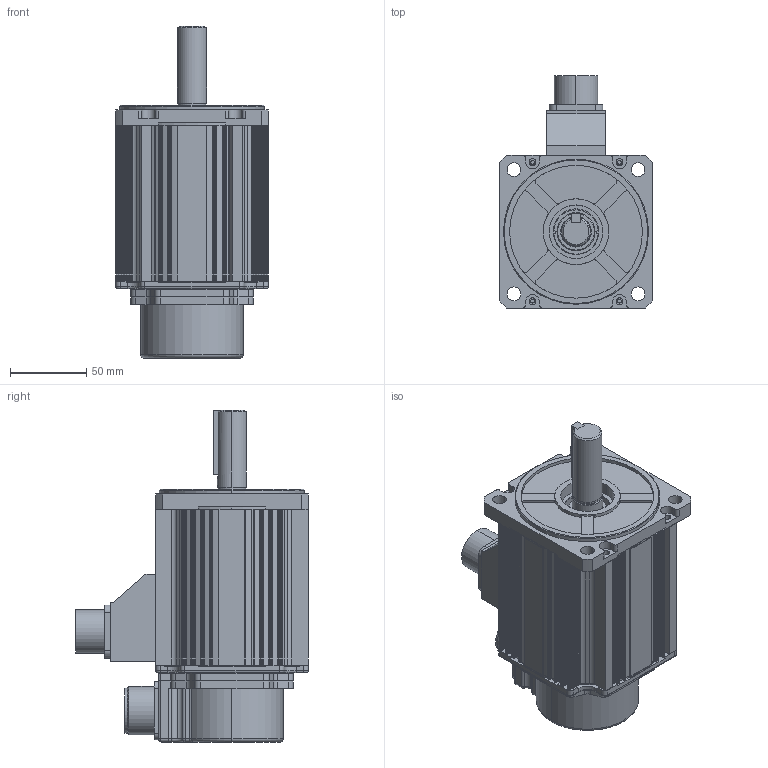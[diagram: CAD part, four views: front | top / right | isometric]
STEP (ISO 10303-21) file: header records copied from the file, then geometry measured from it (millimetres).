
FILE_DESCRIPTION (( 'STEP AP203' ), '1' );
FILE_NAME ('KANS-10DW1N2.STEP', '2024-01-07T23:48:43', ( '' ), ( '' ), 'SwSTEP 2.0', 'SolidWorks 2023', '' );
FILE_SCHEMA (( 'CONFIG_CONTROL_DESIGN' ));
Length unit declared in the file: millimetre
Products named in the file (12): KANS-10DW1N2; CONNECTOR(20-18P); 10050579(CONNECTOR BOX ASS''Y,20SHELL); 10060021(FLANGE); 6X6X42; FRAME(□100,102mm); 10060022(ENCODER COVER,□100.□120,MS20-29P,2of2)_표준; 10060024(Encoder Cover Adapter,□100,120)_표준; 10060019(BRACKET); 10000429(GASKET □80); SHAFT,Ø19x55,Key_표준; 3102A 20-29P
Assembly tree (11 placements, depth 2):
  KANS-10DW1N2
    FRAME(□100,102mm)
    10060019(BRACKET)
    10060021(FLANGE)
    10060022(ENCODER COVER,□100.□120,MS20-29P,2of2)_표준
    10060024(Encoder Cover Adapter,□100,120)_표준
    10050579(CONNECTOR BOX ASS''Y,20SHELL)
    3102A 20-29P
    CONNECTOR(20-18P)
    SHAFT,Ø19x55,Key_표준
    6X6X42
    10000429(GASKET □80)
Bounding box: 100 x 152.35 x 217.4 mm (x, y, z)
Volume: 397628.9 mm3; surface area: 237054.5 mm2
Topology: 12 solids, 12 shells, 1698 faces, 4724 edges, 3093 vertices
Faces by surface type: plane 832, cylinder 737, cone 58, bspline 37, torus 32, sphere 2
Entity records: 57349 total; most frequent: CARTESIAN_POINT 11433, DIRECTION 9538, ORIENTED_EDGE 9368, EDGE_CURVE 4684, AXIS2_PLACEMENT_3D 3316, VERTEX_POINT 3093, LINE 2906, VECTOR 2906
